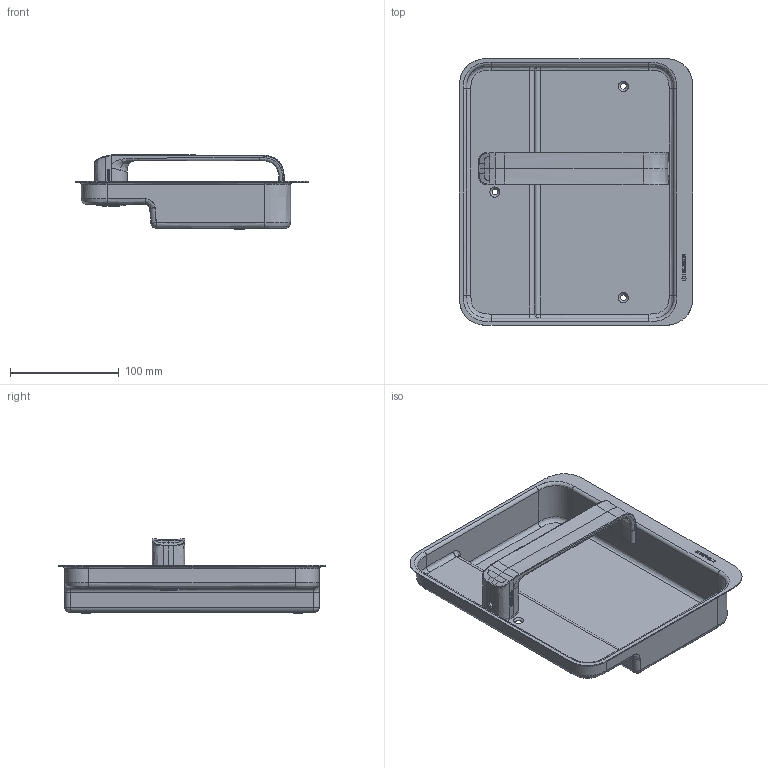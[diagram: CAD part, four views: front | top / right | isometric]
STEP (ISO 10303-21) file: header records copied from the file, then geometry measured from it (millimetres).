
FILE_DESCRIPTION(/* description */ (''),/* implementation_level */ '2;1');
FILE_NAME(/* name */ 'C:\Users\gm\Desktop\Muschel S9.42.D4.stp',/* time_stamp */ '2020-09-24T17:11:03+02:00',/* author */ ('gm'),/* organization */ (''),/* preprocessor_version */ 'ST-DEVELOPER v16.5',/* originating_system */ 'Autodesk Inventor 2017',/* authorisation */ '');
FILE_SCHEMA (('AUTOMOTIVE_DESIGN { 1 0 10303 214 3 1 1 }'));
Length unit declared in the file: millimetre
Products named in the file (1): Muschel S9.42.D4
Bounding box: 214 x 245 x 68.54 mm (x, y, z)
Volume: 132092.6 mm3; surface area: 182210.3 mm2
Topology: 1 solids, 2 shells, 591 faces, 1549 edges, 1002 vertices
Faces by surface type: plane 285, bspline 264, cylinder 24, cone 18
Full cylindrical faces by diameter (mm): 1.7 x2, 4.917 x1, 14.2 x1, 16 x3, 18 x1, 19 x1, 19.1 x1, 23 x1, 23.2 x1, 24 x1, 25 x1, 26 x1, 28 x1, 28.6 x1
Entity records: 32256 total; most frequent: CARTESIAN_POINT 18964, ORIENTED_EDGE 3000, DIRECTION 1811, EDGE_CURVE 1500, VERTEX_POINT 992, LINE 825, VECTOR 825, EDGE_LOOP 686
